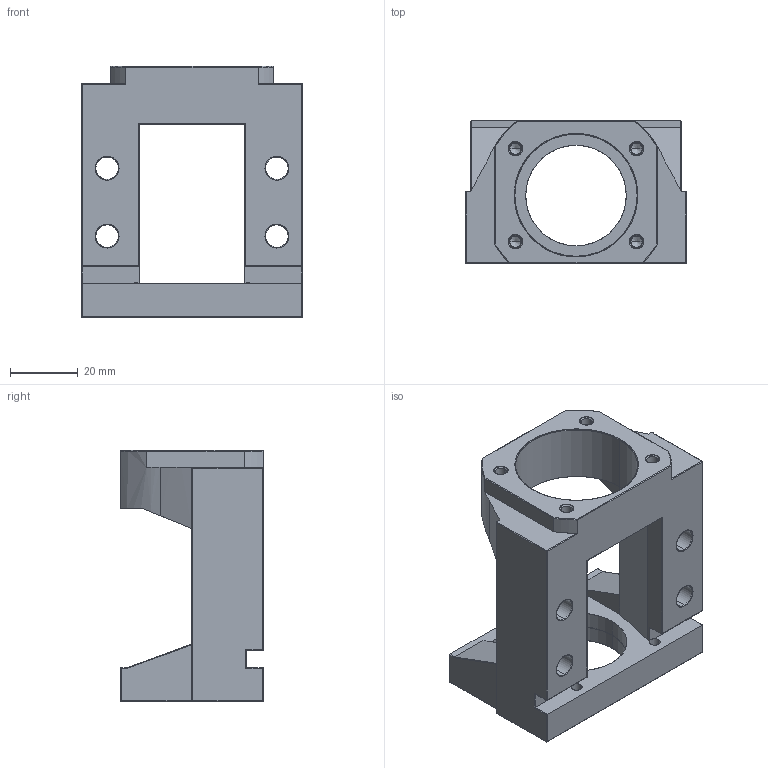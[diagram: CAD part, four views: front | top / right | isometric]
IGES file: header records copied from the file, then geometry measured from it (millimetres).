
Start section: SolidWorks IGES file using analytic representation for surfaces
Global section: file name: C:\Users\117\Desktop\1061208網站3D圖檔問題處理\傳動座\外露型\MBL\MBL10-B.IGS,15HSolidWorks; native system: 2017; preprocessor: SolidWorks 2017; author: 117; date: 171228.140434; units: millimetre
Bounding box: 65 x 42 x 74 mm (x, y, z)
Surface area: 23204.7 mm2 (no closed solid volume)
Topology: 0 solids, 0 shells, 202 faces, 2346 edges, 2326 vertices
Faces by surface type: revolution 127, bspline 75
